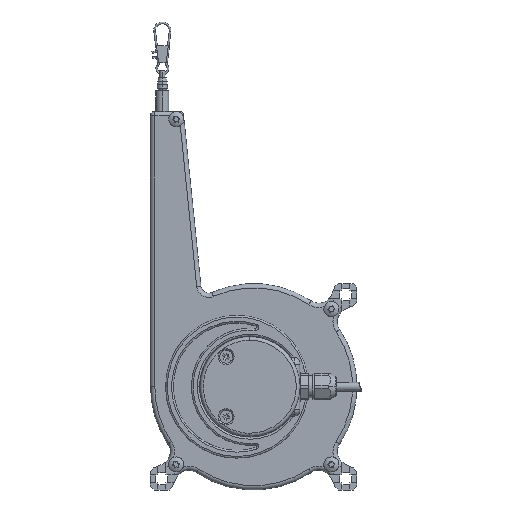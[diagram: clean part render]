
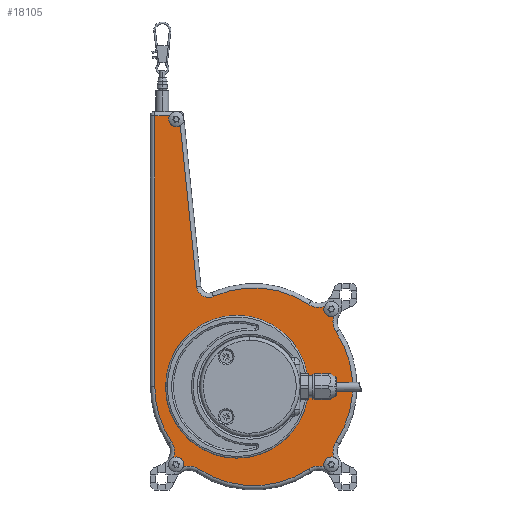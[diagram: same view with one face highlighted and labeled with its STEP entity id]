
A CAD part, left-side view. The second image highlights one B-rep face of the part: STEP entity #18105.
In plain terms, the highlighted planar face has unit normal (-1, 0, 0).
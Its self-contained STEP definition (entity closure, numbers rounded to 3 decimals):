
#5372=CARTESIAN_POINT('',(-27.5,9.75,0.));
#5373=DIRECTION('',(-1.,0.,0.));
#5374=DIRECTION('',(0.,-1.,0.));
#5375=AXIS2_PLACEMENT_3D('',#5372,#5373,#5374);
#5377=CARTESIAN_POINT('',(-27.5,9.75,0.));
#5378=DIRECTION('',(-1.,0.,0.));
#5379=DIRECTION('',(0.,1.,0.));
#5380=AXIS2_PLACEMENT_3D('',#5377,#5378,#5379);
#5425=CARTESIAN_POINT('',(-27.5,45.149,-45.149));
#5426=DIRECTION('',(-1.,0.,0.));
#5427=DIRECTION('',(0.,-0.944,-0.331));
#5428=AXIS2_PLACEMENT_3D('',#5425,#5426,#5427);
#5430=CARTESIAN_POINT('',(-27.5,56.559,
-37.75));
#5431=DIRECTION('',(-1.,0.,0.));
#5432=DIRECTION('',(0.,-0.95,-0.314));
#5433=AXIS2_PLACEMENT_3D('',#5430,#5431,#5432);
#5435=CARTESIAN_POINT('',(-27.5,0.,0.));
#5436=DIRECTION('',(1.,0.,0.));
#5437=DIRECTION('',(0.,0.832,-0.555));
#5438=AXIS2_PLACEMENT_3D('',#5435,#5436,#5437);
#5440=CARTESIAN_POINT('',(-27.5,45.065,155.5));
#5441=DIRECTION('',(-1.,0.,0.));
#5442=DIRECTION('',(0.,0.888,0.46));
#5443=AXIS2_PLACEMENT_3D('',#5440,#5441,#5442);
#5445=CARTESIAN_POINT('',(-27.5,45.065,155.5));
#5446=DIRECTION('',(-1.,0.,0.));
#5447=DIRECTION('',(0.,0.924,0.382));
#5448=AXIS2_PLACEMENT_3D('',#5445,#5446,#5447);
#5450=DIRECTION('',(0.,-0.101,-0.995));
#5451=VECTOR('',#5450,94.108);
#5452=CARTESIAN_POINT('',(-27.5,42.684,151.859));
#5453=LINE('',#5452,#5451);
#5454=CARTESIAN_POINT('',(-27.5,26.188,58.944));
#5455=DIRECTION('',(-1.,0.,0.));
#5456=DIRECTION('',(0.,0.995,-0.101));
#5457=AXIS2_PLACEMENT_3D('',#5454,#5455,#5456);
#5459=CARTESIAN_POINT('',(-27.5,0.,0.));
#5460=DIRECTION('',(1.,0.,0.));
#5461=DIRECTION('',(0.,0.406,0.914));
#5462=AXIS2_PLACEMENT_3D('',#5459,#5460,#5461);
#5464=CARTESIAN_POINT('',(-27.5,-37.75,
56.559));
#5465=DIRECTION('',(-1.,0.,0.));
#5466=DIRECTION('',(0.,0.555,-0.832));
#5467=AXIS2_PLACEMENT_3D('',#5464,#5465,#5466);
#5469=CARTESIAN_POINT('',(-27.5,-45.149,45.149));
#5470=DIRECTION('',(-1.,0.,0.));
#5471=DIRECTION('',(0.,0.944,0.331));
#5472=AXIS2_PLACEMENT_3D('',#5469,#5470,#5471);
#5474=CARTESIAN_POINT('',(-27.5,-56.559,
37.75));
#5475=DIRECTION('',(-1.,0.,0.));
#5476=DIRECTION('',(0.,0.95,0.314));
#5477=AXIS2_PLACEMENT_3D('',#5474,#5475,#5476);
#5479=CARTESIAN_POINT('',(-27.5,0.,0.));
#5480=DIRECTION('',(1.,0.,0.));
#5481=DIRECTION('',(0.,-0.832,0.555));
#5482=AXIS2_PLACEMENT_3D('',#5479,#5480,#5481);
#5484=CARTESIAN_POINT('',(-27.5,-56.559,
-37.75));
#5485=DIRECTION('',(-1.,0.,0.));
#5486=DIRECTION('',(0.,0.832,0.555));
#5487=AXIS2_PLACEMENT_3D('',#5484,#5485,#5486);
#5489=CARTESIAN_POINT('',(-27.5,-45.149,-45.149));
#5490=DIRECTION('',(-1.,0.,0.));
#5491=DIRECTION('',(0.,-0.331,0.944));
#5492=AXIS2_PLACEMENT_3D('',#5489,#5490,#5491);
#5494=CARTESIAN_POINT('',(-27.5,-45.149,-45.149));
#5495=DIRECTION('',(-1.,0.,0.));
#5496=DIRECTION('',(0.,0.924,0.382));
#5497=AXIS2_PLACEMENT_3D('',#5494,#5495,#5496);
#5499=CARTESIAN_POINT('',(-27.5,-37.75,
-56.559));
#5500=DIRECTION('',(-1.,0.,0.));
#5501=DIRECTION('',(0.,-0.314,0.95));
#5502=AXIS2_PLACEMENT_3D('',#5499,#5500,#5501);
#5504=CARTESIAN_POINT('',(-27.5,0.,0.));
#5505=DIRECTION('',(1.,0.,0.));
#5506=DIRECTION('',(0.,-0.555,-0.832));
#5507=AXIS2_PLACEMENT_3D('',#5504,#5505,#5506);
#5509=CARTESIAN_POINT('',(-27.5,37.75,
-56.559));
#5510=DIRECTION('',(-1.,0.,0.));
#5511=DIRECTION('',(0.,-0.555,0.832));
#5512=AXIS2_PLACEMENT_3D('',#5509,#5510,#5511);
#5931=CARTESIAN_POINT('',(-27.5,-46.589,
-41.044));
#6195=DIRECTION('',(0.,1.,0.));
#6196=VECTOR('',#6195,8.572);
#6197=CARTESIAN_POINT('',(-27.5,48.928,157.5));
#6198=LINE('',#6197,#6196);
#6584=DIRECTION('',(0.,0.,-1.));
#6585=VECTOR('',#6584,157.5);
#6586=CARTESIAN_POINT('',(-27.5,57.5,157.5));
#6587=LINE('',#6586,#6585);
#15873=CARTESIAN_POINT('',(-27.5,-47.826,-31.921));
#15874=VERTEX_POINT('',#15873);
#15875=CARTESIAN_POINT('',(-27.5,33.152,58.235));
#15876=CARTESIAN_POINT('',(-27.5,23.346,52.547));
#15877=VERTEX_POINT('',#15875);
#15878=VERTEX_POINT('',#15876);
#15879=CARTESIAN_POINT('',(-27.5,-31.927,47.822));
#15880=VERTEX_POINT('',#15879);
#15895=CARTESIAN_POINT('',(-27.5,-47.826,31.921));
#15896=VERTEX_POINT('',#15895);
#15905=CARTESIAN_POINT('',(-27.5,-31.921,-47.826));
#15906=CARTESIAN_POINT('',(-27.5,31.927,-47.822));
#15907=VERTEX_POINT('',#15905);
#15908=VERTEX_POINT('',#15906);
#15923=CARTESIAN_POINT('',(-27.5,47.826,-31.921));
#15924=CARTESIAN_POINT('',(-27.5,57.5,0.));
#15925=VERTEX_POINT('',#15923);
#15926=VERTEX_POINT('',#15924);
#15927=CARTESIAN_POINT('',(-27.5,57.5,157.5));
#15928=VERTEX_POINT('',#15927);
#15929=CARTESIAN_POINT('',(-27.5,-31.75,0.));
#15930=CARTESIAN_POINT('',(-27.5,51.25,0.));
#15931=VERTEX_POINT('',#15929);
#15932=VERTEX_POINT('',#15930);
#16529=VERTEX_POINT('',#5931);
#16533=CARTESIAN_POINT('',(-27.5,-41.128,-43.488));
#16534=VERTEX_POINT('',#16533);
#16535=CARTESIAN_POINT('',(-27.5,-41.044,-46.589));
#16536=VERTEX_POINT('',#16535);
#16630=CARTESIAN_POINT('',(-27.5,-41.044,46.589));
#16631=CARTESIAN_POINT('',(-27.5,-46.589,41.044));
#16632=VERTEX_POINT('',#16630);
#16633=VERTEX_POINT('',#16631);
#16739=CARTESIAN_POINT('',(-27.5,48.928,157.5));
#16740=CARTESIAN_POINT('',(-27.5,49.085,157.161));
#16741=VERTEX_POINT('',#16739);
#16742=VERTEX_POINT('',#16740);
#16743=CARTESIAN_POINT('',(-27.5,42.684,151.859));
#16744=VERTEX_POINT('',#16743);
#16840=CARTESIAN_POINT('',(-27.5,41.044,-46.589));
#16841=CARTESIAN_POINT('',(-27.5,46.589,-41.044));
#16842=VERTEX_POINT('',#16840);
#16843=VERTEX_POINT('',#16841);
#18054=CARTESIAN_POINT('',(-27.5,0.,0.));
#18055=DIRECTION('',(-1.,0.,0.));
#18056=DIRECTION('',(0.,1.,0.));
#18057=AXIS2_PLACEMENT_3D('',#18054,#18055,#18056);
#18058=PLANE('',#18057);
#18060=ORIENTED_EDGE('',*,*,#18059,.T.);
#18062=ORIENTED_EDGE('',*,*,#18061,.T.);
#18064=ORIENTED_EDGE('',*,*,#18063,.T.);
#18066=ORIENTED_EDGE('',*,*,#18065,.F.);
#18068=ORIENTED_EDGE('',*,*,#18067,.F.);
#18070=ORIENTED_EDGE('',*,*,#18069,.T.);
#18072=ORIENTED_EDGE('',*,*,#18071,.T.);
#18074=ORIENTED_EDGE('',*,*,#18073,.T.);
#18076=ORIENTED_EDGE('',*,*,#18075,.T.);
#18078=ORIENTED_EDGE('',*,*,#18077,.T.);
#18080=ORIENTED_EDGE('',*,*,#18079,.T.);
#18082=ORIENTED_EDGE('',*,*,#18081,.T.);
#18084=ORIENTED_EDGE('',*,*,#18083,.T.);
#18086=ORIENTED_EDGE('',*,*,#18085,.T.);
#18088=ORIENTED_EDGE('',*,*,#18087,.T.);
#18090=ORIENTED_EDGE('',*,*,#18089,.T.);
#18092=ORIENTED_EDGE('',*,*,#18091,.T.);
#18094=ORIENTED_EDGE('',*,*,#18093,.T.);
#18096=ORIENTED_EDGE('',*,*,#18095,.T.);
#18098=ORIENTED_EDGE('',*,*,#18097,.T.);
#18099=EDGE_LOOP('',(#18060,#18062,#18064,#18066,#18068,#18070,#18072,#18074,
#18076,#18078,#18080,#18082,#18084,#18086,#18088,#18090,#18092,#18094,#18096,
#18098));
#18100=FACE_OUTER_BOUND('',#18099,.F.);
#18101=ORIENTED_EDGE('',*,*,#17994,.T.);
#18102=ORIENTED_EDGE('',*,*,#17979,.T.);
#18103=EDGE_LOOP('',(#18101,#18102));
#18104=FACE_BOUND('',#18103,.F.);
#18105=ADVANCED_FACE('',(#18100,#18104),#18058,.T.);
#5376=CIRCLE('',#5375,41.5);
#5381=CIRCLE('',#5380,41.5);
#5429=CIRCLE('',#5428,4.35);
#5434=CIRCLE('',#5433,10.5);
#5439=CIRCLE('',#5438,57.5);
#5444=CIRCLE('',#5443,4.35);
#5449=CIRCLE('',#5448,4.35);
#5458=CIRCLE('',#5457,7.);
#5463=CIRCLE('',#5462,57.5);
#5468=CIRCLE('',#5467,10.5);
#5473=CIRCLE('',#5472,4.35);
#5478=CIRCLE('',#5477,10.5);
#5483=CIRCLE('',#5482,57.5);
#5488=CIRCLE('',#5487,10.5);
#5493=CIRCLE('',#5492,4.35);
#5498=CIRCLE('',#5497,4.35);
#5503=CIRCLE('',#5502,10.5);
#5508=CIRCLE('',#5507,57.5);
#5513=CIRCLE('',#5512,10.5);
#17979=EDGE_CURVE('',#15932,#15931,#5381,.T.);
#17994=EDGE_CURVE('',#15931,#15932,#5376,.T.);
#18059=EDGE_CURVE('',#16842,#16843,#5429,.T.);
#18061=EDGE_CURVE('',#16843,#15925,#5434,.T.);
#18063=EDGE_CURVE('',#15925,#15926,#5439,.T.);
#18065=EDGE_CURVE('',#15928,#15926,#6587,.T.);
#18067=EDGE_CURVE('',#16741,#15928,#6198,.T.);
#18069=EDGE_CURVE('',#16741,#16742,#5444,.T.);
#18071=EDGE_CURVE('',#16742,#16744,#5449,.T.);
#18073=EDGE_CURVE('',#16744,#15877,#5453,.T.);
#18075=EDGE_CURVE('',#15877,#15878,#5458,.T.);
#18077=EDGE_CURVE('',#15878,#15880,#5463,.T.);
#18079=EDGE_CURVE('',#15880,#16632,#5468,.T.);
#18081=EDGE_CURVE('',#16632,#16633,#5473,.T.);
#18083=EDGE_CURVE('',#16633,#15896,#5478,.T.);
#18085=EDGE_CURVE('',#15896,#15874,#5483,.T.);
#18087=EDGE_CURVE('',#15874,#16529,#5488,.T.);
#18089=EDGE_CURVE('',#16529,#16534,#5493,.T.);
#18091=EDGE_CURVE('',#16534,#16536,#5498,.T.);
#18093=EDGE_CURVE('',#16536,#15907,#5503,.T.);
#18095=EDGE_CURVE('',#15907,#15908,#5508,.T.);
#18097=EDGE_CURVE('',#15908,#16842,#5513,.T.);
